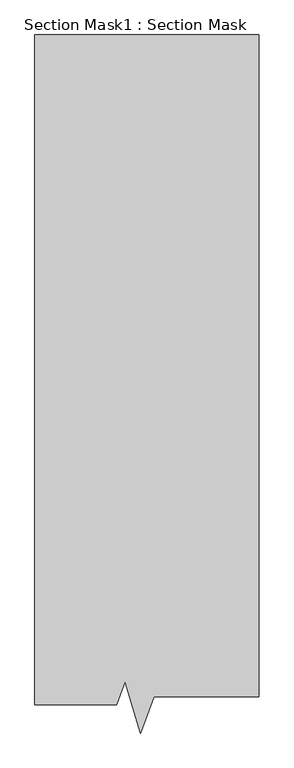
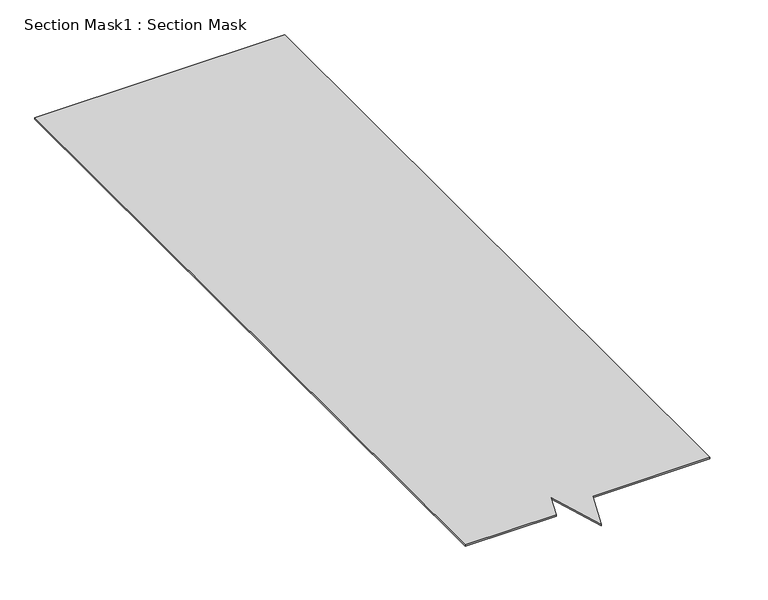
"""IFC4 building model written with IfcOpenShell, lengths in millimetres: proxy geometry, Section Mask1 : Section Mask."""

from ifc_helpers import new_model, si_unit, frame, origin, place, context, project, spatial, polyline, outline, extrude, source, transform, mapped, element, save


def section_mask1_section_mask_feacc367(model_context):
    return source(origin(), model_context, "Body", "SweptSolid", [
        extrude(outline(polyline([(8124.664325, 631.273934), (7900.6222078, 631.273934), (7900.6222078, 2465.4614947), (8515.0051297, 2465.4614947), (8515.0051297, 652.1224056), (8227.2982256, 652.1224056), (8190.6813689, 552.9595639), (8147.6812645, 693.6065681), (8124.664325, 631.273934)])), frame((0.0, 0.0, 45.0273345), z_axis=(0.0, 0.0, 1.0), x_axis=(1.0, 0.0, 0.0)), (0.0, 0.0, 1.0), 3.7483171),
    ])


if __name__ == "__main__":
    model = new_model("IFC4")
    model_context = context("Model", 3, world=origin())
    ifc_project = project(units=[si_unit("LENGTHUNIT", "METRE", prefix="MILLI")], contexts=[model_context])
    site = spatial("IfcSite", under=ifc_project)
    building = spatial("IfcBuilding", under=site)
    placement = place(None, origin())
    section_mask1_section_mask_shape = section_mask1_section_mask_feacc367(model_context)
    element("IfcBuildingElementProxy", 1, Name="Section Mask1 : Section Mask", ObjectType="Section Mask1 : Section Mask", at=placement, inside=building, context=model_context, shape_type="MappedRepresentation", body=[
        mapped(section_mask1_section_mask_shape, transform((0.0, 0.0, 0.0), x_axis=(1.0, 0.0, 0.0), y_axis=(0.0, 1.0, 0.0), z_axis=(0.0, 0.0, 1.0))),
    ])
    save(model, "model.ifc")
